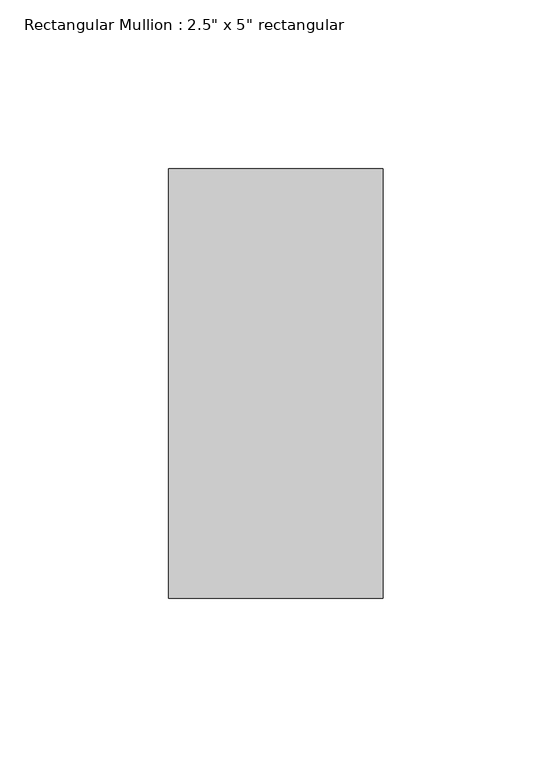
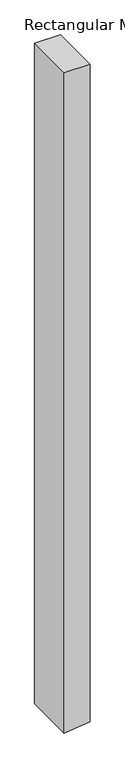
"""IFC4 building model written with IfcOpenShell, lengths in millimetres: member geometry."""

from ifc_helpers import new_model, si_unit, frame, origin, place, context, project, spatial, polyline, outline, extrude, source, transform, mapped, element, save


def member_9a6536ef(model_context):
    return source(origin(), model_context, "Body", "SweptSolid", [
        extrude(outline(polyline([(0.0, 31.75), (0.0, -31.75), (-1730.5709485, -31.75), (-1727.8092321, -7.0583463), (-1723.4685894, 31.75), (0.0, 31.75)])), frame((0.0, -63.5, 0.0), z_axis=(0.0, 1.0, 0.0), x_axis=(0.0, 0.0, 1.0)), (0.0, 0.0, 1.0), 127.0),
    ])


if __name__ == "__main__":
    model = new_model("IFC4")
    model_context = context("Model", 3, world=origin())
    ifc_project = project(units=[si_unit("LENGTHUNIT", "METRE", prefix="MILLI")], contexts=[model_context])
    site = spatial("IfcSite", under=ifc_project)
    building = spatial("IfcBuilding", under=site)
    placement = place(None, origin())
    member_shape = member_9a6536ef(model_context)
    element("IfcMember", 1, ObjectType="Rectangular Mullion : 2.5\" x 5\" rectangular", at=placement, inside=building, context=model_context, shape_type="MappedRepresentation", body=[
        mapped(member_shape, transform((0.0, 0.0, 0.0), x_axis=(1.0, 0.0, 0.0), y_axis=(0.0, 1.0, 0.0), z_axis=(0.0, 0.0, 1.0))),
    ])
    save(model, "model.ifc")
